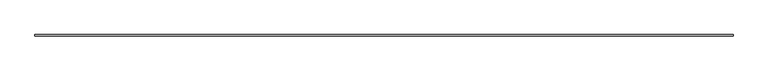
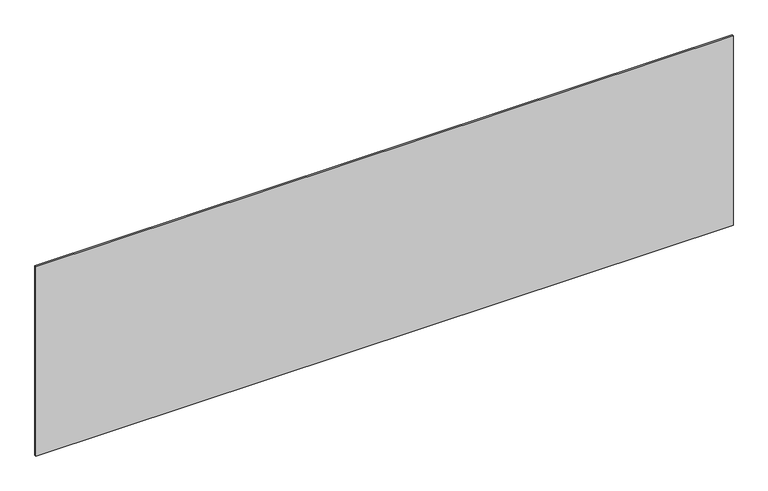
"""IFC4 building model written with IfcOpenShell, lengths in millimetres: plate geometry, システム パネル : 標準."""

from ifc_helpers import new_model, si_unit, origin, origin_with_axes, place, context, project, spatial, polyline, outline, extrude, source, transform, mapped, element, save


def plate_a1dfd6cd(model_context):
    return source(origin(), model_context, "Body", "SweptSolid", [
        extrude(outline(polyline([(2281.6666667, -5.0), (-2281.6666667, -5.0), (-2281.6666667, 5.0), (2281.6666667, 5.0), (2281.6666667, -5.0)])), origin_with_axes(), (0.0, 0.0, 1.0), 1309.8788902),
    ])


if __name__ == "__main__":
    model = new_model("IFC4")
    model_context = context("Model", 3, world=origin())
    ifc_project = project(units=[si_unit("LENGTHUNIT", "METRE", prefix="MILLI")], contexts=[model_context])
    site = spatial("IfcSite", under=ifc_project)
    building = spatial("IfcBuilding", under=site)
    placement = place(None, origin())
    plate_shape = plate_a1dfd6cd(model_context)
    element("IfcPlate", 1, ObjectType="システム パネル : 標準", at=placement, inside=building, context=model_context, shape_type="MappedRepresentation", body=[
        mapped(plate_shape, transform((0.0, 0.0, 0.0), x_axis=(1.0, 0.0, 0.0), y_axis=(0.0, 1.0, 0.0), z_axis=(0.0, 0.0, 1.0))),
    ])
    save(model, "model.ifc")
